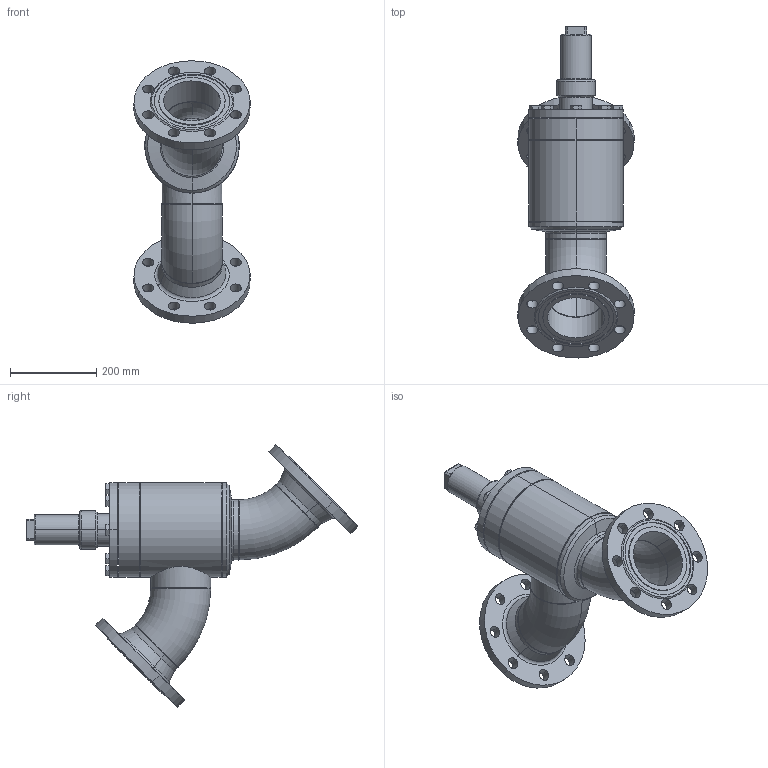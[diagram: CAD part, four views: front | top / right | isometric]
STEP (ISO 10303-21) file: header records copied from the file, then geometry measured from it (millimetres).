
FILE_DESCRIPTION (( 'STEP AP214' ), '1' );
FILE_NAME ('AVB16320D20-DN125_DIN-FL-N_PS40.STEP', '2006-04-27T12:23:20', ( 'Herr Grams' ), ( 'AWP GmbH' ), 'SwSTEP 2.0', 'SolidWorks 2002296', '' );
FILE_SCHEMA (( 'AUTOMOTIVE_DESIGN' ));
Length unit declared in the file: millimetre
Products named in the file (19): AVB16320D20-DN125_DIN-FL-N_PS40; AVB16300E20_Deck+Schr-DN125_Standard; Deckel16300E20-DN125_Standard; Sechskantschraube-DIN933_M16x 45; Gehäuse-kpl16320-DN125_DIN_PS40_Standard; Flansch-DIN-Nut_PS40_DIN-Flansch-DN125_PS40-Nut; Gehäuse-kpl16300-DN125_R1_Standard; Boden16300-DN125_Standard; Kopfstück16300-DN125_Standard; Gehäuse16300-DN125_Standard; Rohrstutzen-A16300-DN125_R1_Standard; Rohrbogen 45°_Rohrbogen-DN125-45°; bead-DN125-4_Standard; bead-DN125-3_Standard; bead-DN125-2_Standard; bead-DN125-1_Standard; bead-DN125-6_Standard; bead-DN125-7_Standard; Kappe16402_DN125-150_Standard
Assembly tree (27 placements, depth 4):
  AVB16320D20-DN125_DIN-FL-N_PS40
    Gehäuse-kpl16320-DN125_DIN_PS40_Standard
      Gehäuse-kpl16300-DN125_R1_Standard
        bead-DN125-2_Standard
        Rohrbogen 45°_Rohrbogen-DN125-45°  x2
        Kopfstück16300-DN125_Standard
        Boden16300-DN125_Standard
        bead-DN125-4_Standard
        bead-DN125-3_Standard
        bead-DN125-1_Standard
        Gehäuse16300-DN125_Standard
        Rohrstutzen-A16300-DN125_R1_Standard
      bead-DN125-7_Standard
      bead-DN125-6_Standard
      Flansch-DIN-Nut_PS40_DIN-Flansch-DN125_PS40-Nut  x2
    AVB16300E20_Deck+Schr-DN125_Standard
      Sechskantschraube-DIN933_M16x 45  x8
      Deckel16300E20-DN125_Standard
    Kappe16402_DN125-150_Standard
Bounding box: 269.74 x 771.39 x 609.58 mm (x, y, z)
Volume: 7881634.1 mm3; surface area: 1404497.4 mm2
Topology: 24 solids, 24 shells, 461 faces, 1020 edges, 618 vertices
Faces by surface type: cylinder 145, plane 134, cone 134, bspline 24, torus 24
Entity records: 11202 total; most frequent: CARTESIAN_POINT 4751, DIRECTION 1200, ORIENTED_EDGE 1080, EDGE_CURVE 540, AXIS2_PLACEMENT_3D 527, VERTEX_POINT 336, EDGE_LOOP 308, CIRCLE 276
